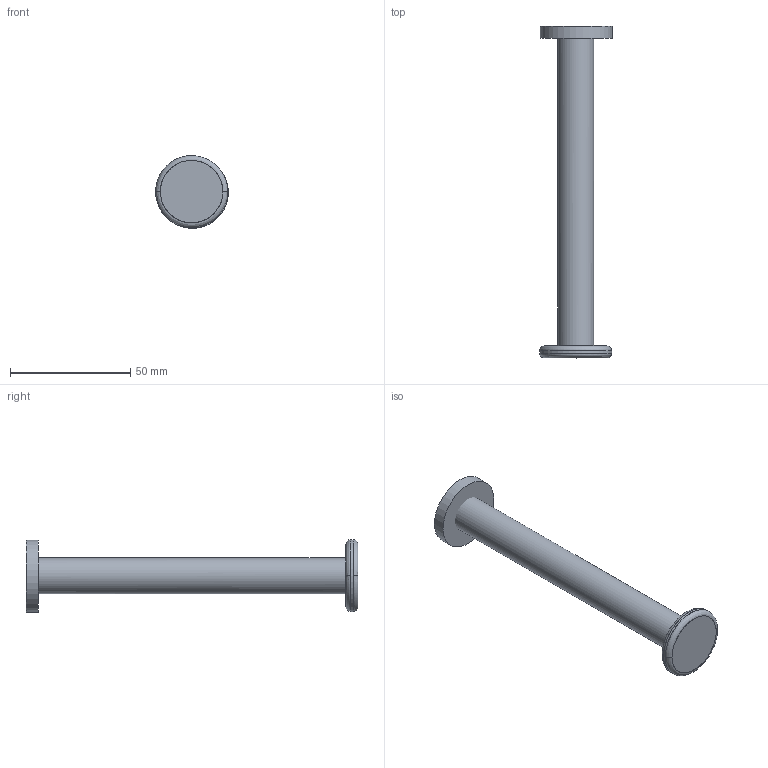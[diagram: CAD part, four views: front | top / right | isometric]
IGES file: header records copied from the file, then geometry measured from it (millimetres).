
Start section: Data from Parasolid IGES Translator 22.0.50, Copyright(c) 2006 Siemens P LM Software. All Rights Reserved.
Global section: file name: noorth_ZENO_H3_D12_W3_4730.igs; native system: By Siemens PLM Incorporated; preprocessor: XPlus GENERIC/IGES 22.0.50; author: Noname; organization: Noname; date: 20251123.103202; units: metre
Bounding box: 30.31 x 138.14 x 30.27 mm (x, y, z)
Volume: 3534.3 mm3; surface area: 10219.9 mm2
Topology: 1 solids, 1 shells, 13 faces, 37 edges, 36 vertices
Faces by surface type: bspline 5, extrusion 4, plane 2, revolution 1, cylinder 1
Full cylindrical faces by diameter (mm): 30 x1
